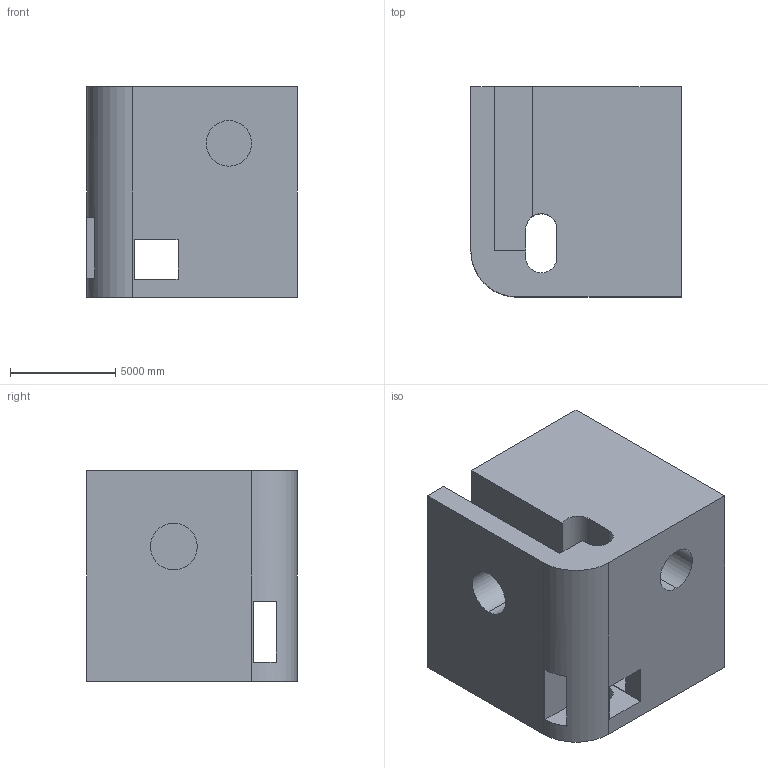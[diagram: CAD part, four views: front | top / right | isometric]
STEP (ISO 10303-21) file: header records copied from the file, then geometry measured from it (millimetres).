
FILE_DESCRIPTION (( 'STEP AP203' ), '1' );
FILE_NAME ('651.STEP', '2022-07-29T12:18:46', ( 'user' ), ( '' ), 'SwSTEP 2.0', 'SolidWorks 2021', '' );
FILE_SCHEMA (( 'CONFIG_CONTROL_DESIGN' ));
Length unit declared in the file: centimetre
Products named in the file (1): 651
Bounding box: 10000 x 10000 x 10000 mm (x, y, z)
Volume: 826087742558.2 mm3; surface area: 852524359.8 mm2
Topology: 1 solids, 1 shells, 36 faces, 108 edges, 72 vertices
Faces by surface type: plane 27, cylinder 9
Entity records: 1310 total; most frequent: CARTESIAN_POINT 217, ORIENTED_EDGE 216, DIRECTION 203, EDGE_CURVE 108, VECTOR 87, LINE 87, VERTEX_POINT 72, AXIS2_PLACEMENT_3D 58
